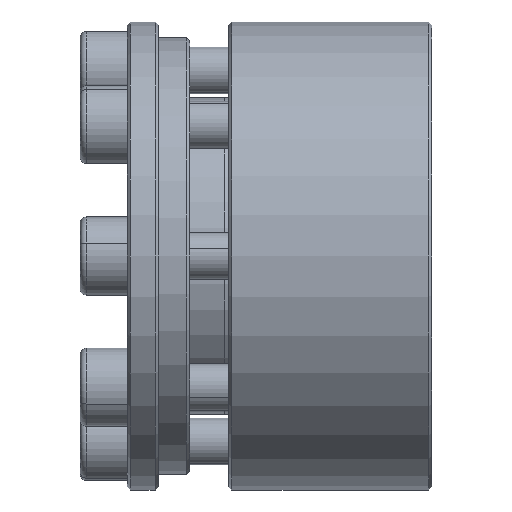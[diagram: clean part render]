
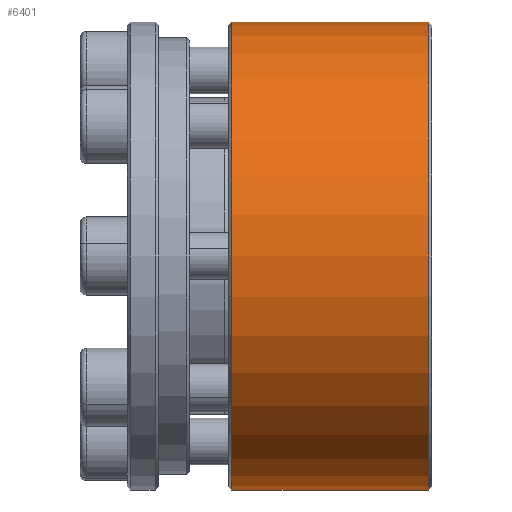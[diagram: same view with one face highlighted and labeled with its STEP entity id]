
A CAD part, front view. The second image highlights one B-rep face of the part: STEP entity #6401.
In plain terms, the highlighted cylindrical face has radius 29.96 mm (diameter 59.92 mm), a partial arc.
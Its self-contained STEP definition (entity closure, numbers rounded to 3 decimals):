
#614 = CYLINDRICAL_SURFACE ( 'NONE', #6075, 29.96 ) ;
#685 = CARTESIAN_POINT ( 'NONE',  ( -67.166, 26.04, 0. ) ) ;
#1142 = VERTEX_POINT ( 'NONE', #8343 ) ;
#1300 = ORIENTED_EDGE ( 'NONE', *, *, #1687, .T. ) ;
#1519 = CARTESIAN_POINT ( 'NONE',  ( -67.166, 26.04, 29.96 ) ) ;
#1521 = ORIENTED_EDGE ( 'NONE', *, *, #1667, .T. ) ;
#1667 = EDGE_CURVE ( 'NONE', #8282, #7732, #4289, .T. ) ;
#1687 = EDGE_CURVE ( 'NONE', #7732, #7644, #2114, .T. ) ;
#2003 = DIRECTION ( 'NONE',  ( -1., 0., 0. ) ) ;
#2027 = CARTESIAN_POINT ( 'NONE',  ( -92.766, 26.04, 29.96 ) ) ;
#2053 = DIRECTION ( 'NONE',  ( -1., 0., 0. ) ) ;
#2085 = CARTESIAN_POINT ( 'NONE',  ( -92.366, 26.04, 0. ) ) ;
#2114 = LINE ( 'NONE', #2027, #5006 ) ;
#2637 = CIRCLE ( 'NONE', #6510, 29.96 ) ;
#2654 = DIRECTION ( 'NONE',  ( 0., 0., 1. ) ) ;
#3349 = CARTESIAN_POINT ( 'NONE',  ( -92.766, 26.04, 0. ) ) ;
#3398 = CARTESIAN_POINT ( 'NONE',  ( -92.766, 26.04, -29.96 ) ) ;
#4157 = LINE ( 'NONE', #3398, #7523 ) ;
#4289 = CIRCLE ( 'NONE', #6727, 29.96 ) ;
#4815 = DIRECTION ( 'NONE',  ( 1., 0., 0. ) ) ;
#4960 = CARTESIAN_POINT ( 'NONE',  ( -92.366, 26.04, 29.96 ) ) ;
#5006 = VECTOR ( 'NONE', #8191, 1000. ) ;
#6075 = AXIS2_PLACEMENT_3D ( 'NONE', #3349, #2003, #8798 ) ;
#6401 = ADVANCED_FACE ( 'NONE', ( #6753 ), #614, .T. ) ;
#6510 = AXIS2_PLACEMENT_3D ( 'NONE', #2085, #4815, #7547 ) ;
#6635 = EDGE_LOOP ( 'NONE', ( #8020, #1521, #1300, #6747 ) ) ;
#6727 = AXIS2_PLACEMENT_3D ( 'NONE', #685, #8236, #2654 ) ;
#6747 = ORIENTED_EDGE ( 'NONE', *, *, #6943, .T. ) ;
#6753 = FACE_OUTER_BOUND ( 'NONE', #6635, .T. ) ;
#6943 = EDGE_CURVE ( 'NONE', #7644, #1142, #2637, .T. ) ;
#7523 = VECTOR ( 'NONE', #2053, 1000. ) ;
#7547 = DIRECTION ( 'NONE',  ( 0., 0., -1. ) ) ;
#7644 = VERTEX_POINT ( 'NONE', #4960 ) ;
#7732 = VERTEX_POINT ( 'NONE', #1519 ) ;
#8020 = ORIENTED_EDGE ( 'NONE', *, *, #8125, .F. ) ;
#8125 = EDGE_CURVE ( 'NONE', #8282, #1142, #4157, .T. ) ;
#8191 = DIRECTION ( 'NONE',  ( -1., 0., 0. ) ) ;
#8236 = DIRECTION ( 'NONE',  ( -1., 0., 0. ) ) ;
#8282 = VERTEX_POINT ( 'NONE', #8572 ) ;
#8343 = CARTESIAN_POINT ( 'NONE',  ( -92.366, 26.04, -29.96 ) ) ;
#8572 = CARTESIAN_POINT ( 'NONE',  ( -67.166, 26.04, -29.96 ) ) ;
#8798 = DIRECTION ( 'NONE',  ( 0., 0., 1. ) ) ;
